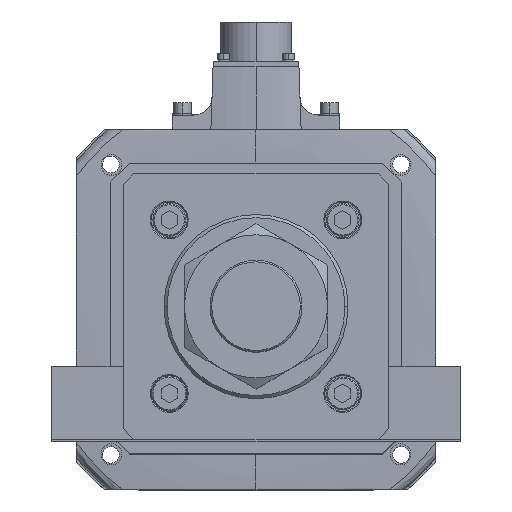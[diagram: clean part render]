
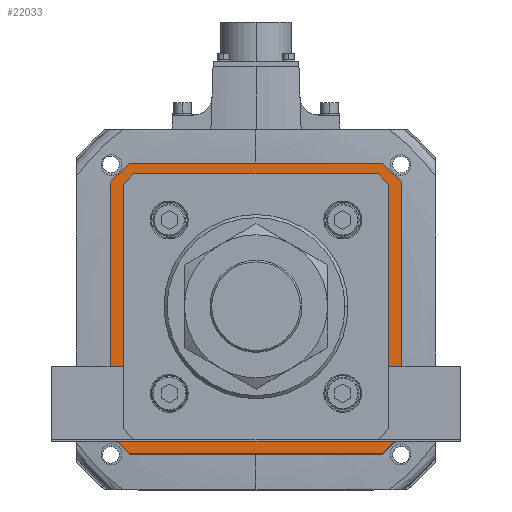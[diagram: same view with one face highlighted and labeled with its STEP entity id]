
A CAD part, top view. The second image highlights one B-rep face of the part: STEP entity #22033.
In plain terms, the highlighted planar face has unit normal (0, 0, 1).
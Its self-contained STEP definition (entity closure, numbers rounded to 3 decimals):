
#80 = VECTOR ( 'NONE', #19823, 1000. ) ;
#686 = LINE ( 'NONE', #27377, #7321 ) ;
#980 = VERTEX_POINT ( 'NONE', #26913 ) ;
#1111 = CARTESIAN_POINT ( 'NONE',  ( 0., -63., -142. ) ) ;
#1375 = LINE ( 'NONE', #11637, #31449 ) ;
#1507 = CARTESIAN_POINT ( 'NONE',  ( 63., 58.793, -142. ) ) ;
#1896 = LINE ( 'NONE', #27458, #19241 ) ;
#2346 = EDGE_CURVE ( 'NONE', #29669, #41539, #28250, .T. ) ;
#2561 = DIRECTION ( 'NONE',  ( -0.707, -0.707, 0. ) ) ;
#2963 = DIRECTION ( 'NONE',  ( 0., -1., 0. ) ) ;
#3700 = ORIENTED_EDGE ( 'NONE', *, *, #13675, .F. ) ;
#4061 = PLANE ( 'NONE',  #28967 ) ;
#4209 = EDGE_CURVE ( 'NONE', #22249, #29669, #6032, .T. ) ;
#4405 = ORIENTED_EDGE ( 'NONE', *, *, #42286, .T. ) ;
#4498 = DIRECTION ( 'NONE',  ( -0.707, 0.707, 0. ) ) ;
#5466 = LINE ( 'NONE', #11092, #11439 ) ;
#6032 = LINE ( 'NONE', #42972, #22763 ) ;
#6159 = VERTEX_POINT ( 'NONE', #19664 ) ;
#6837 = CARTESIAN_POINT ( 'NONE',  ( -71., 62., -142. ) ) ;
#7174 = EDGE_CURVE ( 'NONE', #41539, #46360, #5466, .T. ) ;
#7321 = VECTOR ( 'NONE', #40264, 1000. ) ;
#8248 = VECTOR ( 'NONE', #4498, 1000. ) ;
#9260 = VECTOR ( 'NONE', #23509, 1000. ) ;
#9338 = EDGE_CURVE ( 'NONE', #6159, #33081, #686, .T. ) ;
#9502 = CARTESIAN_POINT ( 'NONE',  ( 71., -62., -142. ) ) ;
#9578 = CARTESIAN_POINT ( 'NONE',  ( 71., 62., -142. ) ) ;
#9646 = EDGE_CURVE ( 'NONE', #48192, #46353, #1375, .T. ) ;
#9666 = EDGE_CURVE ( 'NONE', #980, #24910, #19375, .T. ) ;
#10378 = EDGE_CURVE ( 'NONE', #24910, #14760, #23970, .T. ) ;
#10477 = ORIENTED_EDGE ( 'NONE', *, *, #32187, .T. ) ;
#11092 = CARTESIAN_POINT ( 'NONE',  ( 60.896, -60.896, -142. ) ) ;
#11439 = VECTOR ( 'NONE', #2561, 1000. ) ;
#11625 = CARTESIAN_POINT ( 'NONE',  ( -71., 62., -142. ) ) ;
#11637 = CARTESIAN_POINT ( 'NONE',  ( -60.896, -60.896, -142. ) ) ;
#11801 = CARTESIAN_POINT ( 'NONE',  ( 63., -58.793, -142. ) ) ;
#12082 = CARTESIAN_POINT ( 'NONE',  ( -71., -62., -142. ) ) ;
#12185 = EDGE_CURVE ( 'NONE', #46353, #6159, #32518, .T. ) ;
#12357 = FACE_OUTER_BOUND ( 'NONE', #20329, .T. ) ;
#12455 = DIRECTION ( 'NONE',  ( 1., 0., 0. ) ) ;
#12545 = DIRECTION ( 'NONE',  ( 0., 1., 0. ) ) ;
#12834 = VECTOR ( 'NONE', #2963, 1000. ) ;
#13281 = DIRECTION ( 'NONE',  ( -1., 0., 0. ) ) ;
#13466 = CARTESIAN_POINT ( 'NONE',  ( 62., -71., -142. ) ) ;
#13675 = EDGE_CURVE ( 'NONE', #25294, #33651, #37026, .T. ) ;
#13704 = CARTESIAN_POINT ( 'NONE',  ( -63., 0., -142. ) ) ;
#14366 = FACE_BOUND ( 'NONE', #41511, .T. ) ;
#14760 = VERTEX_POINT ( 'NONE', #51587 ) ;
#14932 = ORIENTED_EDGE ( 'NONE', *, *, #4209, .T. ) ;
#17711 = DIRECTION ( 'NONE',  ( 1., 0., 0. ) ) ;
#17755 = ORIENTED_EDGE ( 'NONE', *, *, #33372, .F. ) ;
#17979 = CARTESIAN_POINT ( 'NONE',  ( -62., -71., -142. ) ) ;
#19241 = VECTOR ( 'NONE', #43912, 1000. ) ;
#19375 = LINE ( 'NONE', #9578, #51429 ) ;
#19466 = CARTESIAN_POINT ( 'NONE',  ( -62., 71., -142. ) ) ;
#19664 = CARTESIAN_POINT ( 'NONE',  ( -63., 58.793, -142. ) ) ;
#19823 = DIRECTION ( 'NONE',  ( 0.707, -0.707, 0. ) ) ;
#20329 = EDGE_LOOP ( 'NONE', ( #17755, #21828, #49134, #3700, #26736, #31511, #52410, #25691 ) ) ;
#20582 = CARTESIAN_POINT ( 'NONE',  ( -58.793, 63., -142. ) ) ;
#21078 = LINE ( 'NONE', #11625, #52423 ) ;
#21445 = CARTESIAN_POINT ( 'NONE',  ( 0., 0., -142. ) ) ;
#21828 = ORIENTED_EDGE ( 'NONE', *, *, #51798, .F. ) ;
#21878 = VECTOR ( 'NONE', #13281, 1000. ) ;
#22033 = ADVANCED_FACE ( 'NONE', ( #14366, #12357 ), #4061, .T. ) ;
#22249 = VERTEX_POINT ( 'NONE', #27579 ) ;
#22524 = CARTESIAN_POINT ( 'NONE',  ( -62., 71., -142. ) ) ;
#22763 = VECTOR ( 'NONE', #52626, 1000. ) ;
#23509 = DIRECTION ( 'NONE',  ( -0.707, -0.707, 0. ) ) ;
#23561 = DIRECTION ( 'NONE',  ( 0.707, 0.707, 0. ) ) ;
#23970 = LINE ( 'NONE', #9502, #9260 ) ;
#24910 = VERTEX_POINT ( 'NONE', #43924 ) ;
#25134 = LINE ( 'NONE', #19466, #28476 ) ;
#25294 = VERTEX_POINT ( 'NONE', #38681 ) ;
#25384 = CARTESIAN_POINT ( 'NONE',  ( -63., -58.793, -142. ) ) ;
#25691 = ORIENTED_EDGE ( 'NONE', *, *, #38383, .F. ) ;
#26093 = CARTESIAN_POINT ( 'NONE',  ( 0., 63., -142. ) ) ;
#26736 = ORIENTED_EDGE ( 'NONE', *, *, #40401, .F. ) ;
#26913 = CARTESIAN_POINT ( 'NONE',  ( 71., 62., -142. ) ) ;
#27377 = CARTESIAN_POINT ( 'NONE',  ( -60.896, 60.896, -142. ) ) ;
#27458 = CARTESIAN_POINT ( 'NONE',  ( 62., 71., -142. ) ) ;
#27579 = CARTESIAN_POINT ( 'NONE',  ( 58.793, 63., -142. ) ) ;
#28250 = LINE ( 'NONE', #41392, #12834 ) ;
#28476 = VECTOR ( 'NONE', #23561, 1000. ) ;
#28498 = VECTOR ( 'NONE', #12545, 1000. ) ;
#28739 = VECTOR ( 'NONE', #17711, 1000. ) ;
#28967 = AXIS2_PLACEMENT_3D ( 'NONE', #21445, #55030, #12455 ) ;
#29669 = VERTEX_POINT ( 'NONE', #1507 ) ;
#31268 = CARTESIAN_POINT ( 'NONE',  ( -58.793, -63., -142. ) ) ;
#31449 = VECTOR ( 'NONE', #54396, 1000. ) ;
#31511 = ORIENTED_EDGE ( 'NONE', *, *, #10378, .F. ) ;
#32187 = EDGE_CURVE ( 'NONE', #33081, #22249, #36781, .T. ) ;
#32518 = LINE ( 'NONE', #13704, #28498 ) ;
#33081 = VERTEX_POINT ( 'NONE', #20582 ) ;
#33372 = EDGE_CURVE ( 'NONE', #49066, #42414, #1896, .T. ) ;
#33651 = VERTEX_POINT ( 'NONE', #12082 ) ;
#33971 = ORIENTED_EDGE ( 'NONE', *, *, #2346, .T. ) ;
#34452 = VECTOR ( 'NONE', #35126, 1000. ) ;
#34968 = ORIENTED_EDGE ( 'NONE', *, *, #9338, .T. ) ;
#35126 = DIRECTION ( 'NONE',  ( -1., 0., 0. ) ) ;
#36439 = ORIENTED_EDGE ( 'NONE', *, *, #9646, .T. ) ;
#36650 = ORIENTED_EDGE ( 'NONE', *, *, #12185, .T. ) ;
#36781 = LINE ( 'NONE', #26093, #28739 ) ;
#37026 = LINE ( 'NONE', #17979, #8248 ) ;
#37355 = VERTEX_POINT ( 'NONE', #6837 ) ;
#38383 = EDGE_CURVE ( 'NONE', #42414, #980, #41463, .T. ) ;
#38681 = CARTESIAN_POINT ( 'NONE',  ( -62., -71., -142. ) ) ;
#40264 = DIRECTION ( 'NONE',  ( 0.707, 0.707, 0. ) ) ;
#40401 = EDGE_CURVE ( 'NONE', #14760, #25294, #49227, .T. ) ;
#40563 = CARTESIAN_POINT ( 'NONE',  ( 71., 62., -142. ) ) ;
#41392 = CARTESIAN_POINT ( 'NONE',  ( 63., 0., -142. ) ) ;
#41463 = LINE ( 'NONE', #40563, #80 ) ;
#41511 = EDGE_LOOP ( 'NONE', ( #33971, #52076, #4405, #36439, #36650, #34968, #10477, #14932 ) ) ;
#41517 = EDGE_CURVE ( 'NONE', #33651, #37355, #21078, .T. ) ;
#41539 = VERTEX_POINT ( 'NONE', #11801 ) ;
#42286 = EDGE_CURVE ( 'NONE', #46360, #48192, #43749, .T. ) ;
#42288 = DIRECTION ( 'NONE',  ( 0., -1., 0. ) ) ;
#42414 = VERTEX_POINT ( 'NONE', #54066 ) ;
#42972 = CARTESIAN_POINT ( 'NONE',  ( 60.896, 60.896, -142. ) ) ;
#43749 = LINE ( 'NONE', #1111, #34452 ) ;
#43912 = DIRECTION ( 'NONE',  ( 1., 0., 0. ) ) ;
#43924 = CARTESIAN_POINT ( 'NONE',  ( 71., -62., -142. ) ) ;
#46353 = VERTEX_POINT ( 'NONE', #25384 ) ;
#46360 = VERTEX_POINT ( 'NONE', #55242 ) ;
#48192 = VERTEX_POINT ( 'NONE', #31268 ) ;
#49066 = VERTEX_POINT ( 'NONE', #22524 ) ;
#49134 = ORIENTED_EDGE ( 'NONE', *, *, #41517, .F. ) ;
#49227 = LINE ( 'NONE', #13466, #21878 ) ;
#51429 = VECTOR ( 'NONE', #42288, 1000. ) ;
#51587 = CARTESIAN_POINT ( 'NONE',  ( 62., -71., -142. ) ) ;
#51798 = EDGE_CURVE ( 'NONE', #37355, #49066, #25134, .T. ) ;
#52076 = ORIENTED_EDGE ( 'NONE', *, *, #7174, .T. ) ;
#52410 = ORIENTED_EDGE ( 'NONE', *, *, #9666, .F. ) ;
#52423 = VECTOR ( 'NONE', #54382, 1000. ) ;
#52626 = DIRECTION ( 'NONE',  ( 0.707, -0.707, 0. ) ) ;
#54066 = CARTESIAN_POINT ( 'NONE',  ( 62., 71., -142. ) ) ;
#54382 = DIRECTION ( 'NONE',  ( 0., 1., 0. ) ) ;
#54396 = DIRECTION ( 'NONE',  ( -0.707, 0.707, 0. ) ) ;
#55030 = DIRECTION ( 'NONE',  ( 0., 0., 1. ) ) ;
#55242 = CARTESIAN_POINT ( 'NONE',  ( 58.793, -63., -142. ) ) ;
